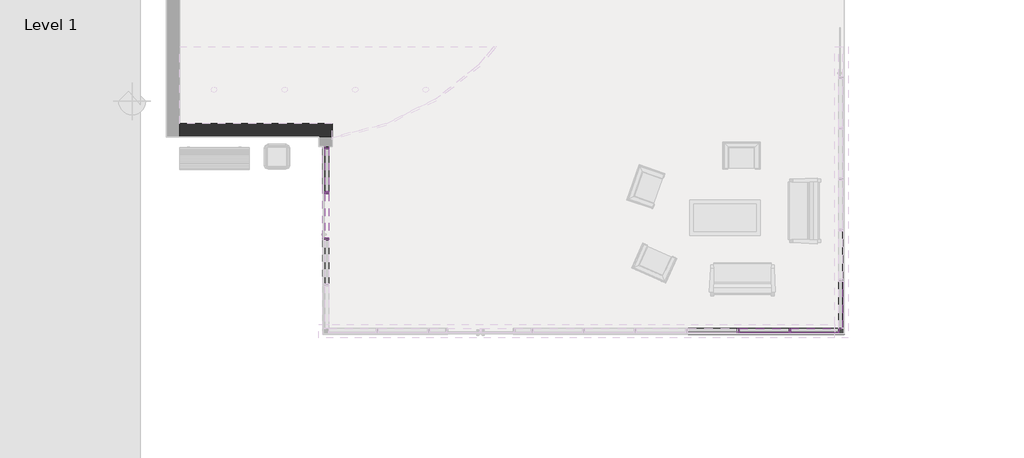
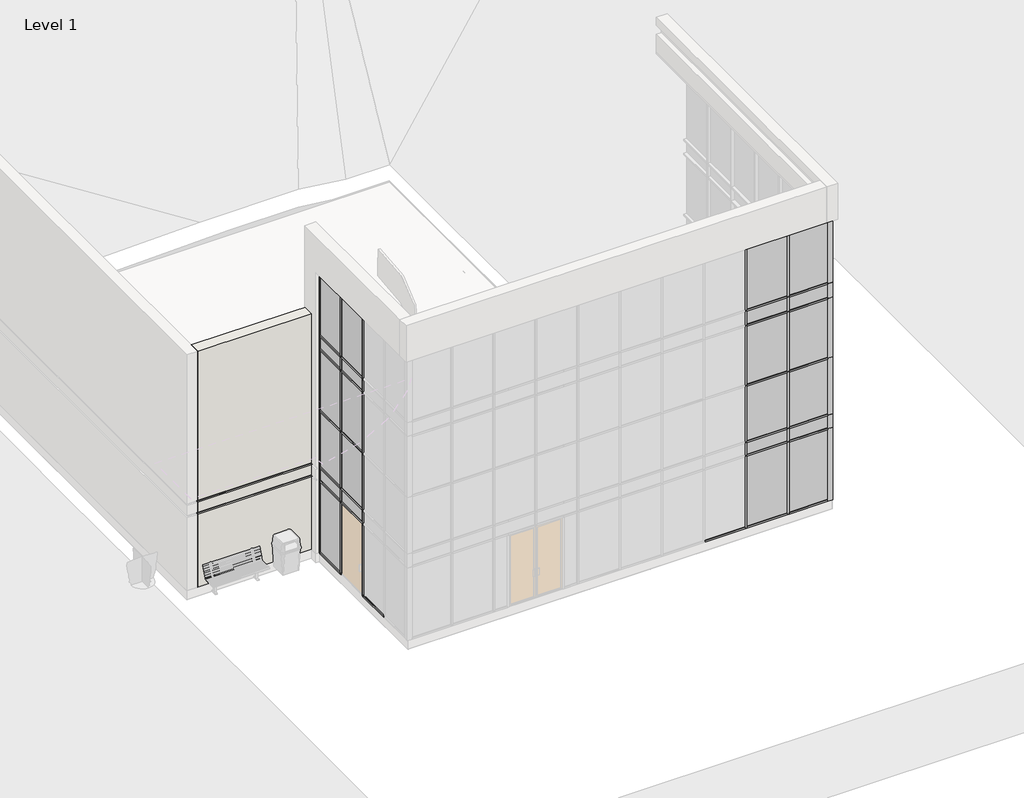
# One storey, part 3 of 6: 67 members, 30 plates, 1 wall.
"""IFC4 building model written with IfcOpenShell, lengths in millimetres."""

from ifc_helpers import new_model, si_unit, origin, place, context, project, spatial, faceted_brep, transform, mapped, element, save
from components import quad_corner_mullion_quad_mullion_1_fda5a4be, quad_corner_mullion_quad_mullion_1_bcb46a8a, quad_corner_mullion_quad_mullion_1_d3d17435, quad_corner_mullion_quad_mullion_1_17698892, quad_corner_mullion_quad_mullion_1_257211b5, quad_corner_mullion_quad_mullion_1_d4d7d3a7, rectangular_mullion_50_x_150mm_ae6afb2b, rectangular_mullion_50_x_150mm_9277cc62, rectangular_mullion_50_x_150mm_116e1582, rectangular_mullion_50_x_150mm_4a8db126, rectangular_mullion_50_x_150mm_f0eb3f16, rectangular_mullion_50_x_150mm_ef179906, rectangular_mullion_50_x_150mm_169d2d5c, rectangular_mullion_50_x_150mm_a98d9a75, rectangular_mullion_50_x_150mm_e5e1dcca, rectangular_mullion_50_x_150mm_47c0eb49, rectangular_mullion_50_x_150mm_2677f012, rectangular_mullion_50_x_150mm_686aa266, rectangular_mullion_50_x_150mm_55a91b40, rectangular_mullion_50_x_150mm_fd087c06, rectangular_mullion_50_x_150mm_e243c0e9, rectangular_mullion_50_x_150mm_1c0c8fcc, rectangular_mullion_50_x_150mm_eadac301, rectangular_mullion_50_x_150mm_5d9cdbe7, rectangular_mullion_50_x_150mm_d8a6659f, rectangular_mullion_50_x_150mm_c664ab49, rectangular_mullion_50_x_150mm_22f77a7a, system_panel_glazed_b7e011ba, system_panel_glazed_fa8e781c, system_panel_glazed_2755e160, system_panel_glazed_915f67fa, system_panel_glazed_d3095f7c, system_panel_glazed_40405178, system_panel_glazed_9a941065, system_panel_glazed_8cd55946, system_panel_glazed_23c7b05c, system_panel_glazed_1235180c, system_panel_glazed_c9174913, system_panel_glazed_3aaf1b15, system_panel_glazed_c71bf8b9, system_panel_glazed_c9745aa0, system_panel_glazed_3c257985, system_panel_glazed_e39aac95, system_panel_glazed_619aa5c3, system_panel_glazed_1cc95e9d, system_panel_glazed_5f4b9808, system_panel_glazed_b287760b, system_panel_glazed_29643dd6, system_panel_glazed_af9e971b, system_panel_glazed_48c6fd0a, system_panel_glazed_b8e40a07, system_panel_glazed_b5705625, system_panel_glazed_676078d9, system_panel_glazed_869bd01b

model = new_model("IFC4")

# Units and contexts
model_context = context("Model", 3, world=origin())
ifc_project = project(units=[si_unit("LENGTHUNIT", "METRE", prefix="MILLI")], contexts=[model_context])

# Site, building, storey
site = spatial("IfcSite", under=ifc_project)
building = spatial("IfcBuilding", under=site)
storey = spatial("IfcBuildingStorey", under=building, Name="Level 1", Elevation=45720.0)

# Members
placement = place(None, origin())
quad_corner_mullion_quad_mullion_1_shape = quad_corner_mullion_quad_mullion_1_fda5a4be(model_context)
element("IfcMember", 1, ObjectType="Quad Corner Mullion : Quad Mullion 1", at=placement, inside=storey, context=model_context, shape_type="MappedRepresentation", body=[
    mapped(quad_corner_mullion_quad_mullion_1_shape, transform((3237.9561928, -8109.3373862, 55168.8), x_axis=(1.0, 0.0, 0.0), y_axis=(0.0, 1.0, 0.0), z_axis=(0.0, 0.0, 1.0))),
])
quad_corner_mullion_quad_mullion_1_2_shape = quad_corner_mullion_quad_mullion_1_bcb46a8a(model_context)
element("IfcMember", 2, ObjectType="Quad Corner Mullion : Quad Mullion 1", at=placement, inside=storey, context=model_context, shape_type="MappedRepresentation", body=[
    mapped(quad_corner_mullion_quad_mullion_1_2_shape, transform((3237.9561928, -8109.3373862, 48158.4), x_axis=(1.0, 0.0, 0.0), y_axis=(0.0, 1.0, 0.0), z_axis=(0.0, 0.0, 1.0))),
])
quad_corner_mullion_quad_mullion_1_3_shape = quad_corner_mullion_quad_mullion_1_d3d17435(model_context)
element("IfcMember", 3, ObjectType="Quad Corner Mullion : Quad Mullion 1", at=placement, inside=storey, context=model_context, shape_type="MappedRepresentation", body=[
    mapped(quad_corner_mullion_quad_mullion_1_3_shape, transform((3237.9561928, -8109.3373862, 48615.6), x_axis=(1.0, 0.0, 0.0), y_axis=(0.0, 1.0, 0.0), z_axis=(0.0, 0.0, 1.0))),
])
quad_corner_mullion_quad_mullion_1_4_shape = quad_corner_mullion_quad_mullion_1_17698892(model_context)
element("IfcMember", 4, ObjectType="Quad Corner Mullion : Quad Mullion 1", at=placement, inside=storey, context=model_context, shape_type="MappedRepresentation", body=[
    mapped(quad_corner_mullion_quad_mullion_1_4_shape, transform((3237.9561928, -8109.3373862, 50520.0), x_axis=(1.0, 0.0, 0.0), y_axis=(0.0, 1.0, 0.0), z_axis=(0.0, 0.0, 1.0))),
])
quad_corner_mullion_quad_mullion_1_5_shape = quad_corner_mullion_quad_mullion_1_257211b5(model_context)
element("IfcMember", 5, ObjectType="Quad Corner Mullion : Quad Mullion 1", at=placement, inside=storey, context=model_context, shape_type="MappedRepresentation", body=[
    mapped(quad_corner_mullion_quad_mullion_1_5_shape, transform((3237.9561928, -8109.3373862, 53035.2), x_axis=(1.0, 0.0, 0.0), y_axis=(0.0, 1.0, 0.0), z_axis=(0.0, 0.0, 1.0))),
])
quad_corner_mullion_quad_mullion_1_6_shape = quad_corner_mullion_quad_mullion_1_d4d7d3a7(model_context)
element("IfcMember", 6, ObjectType="Quad Corner Mullion : Quad Mullion 1", at=placement, inside=storey, context=model_context, shape_type="MappedRepresentation", body=[
    mapped(quad_corner_mullion_quad_mullion_1_6_shape, transform((3237.9561928, -8109.3373862, 52535.2), x_axis=(1.0, 0.0, 0.0), y_axis=(0.0, 1.0, 0.0), z_axis=(0.0, 0.0, 1.0))),
])
rectangular_mullion_50_x_150mm_shape = rectangular_mullion_50_x_150mm_ae6afb2b(model_context)
element("IfcMember", 7, ObjectType="Rectangular Mullion : 50 x 150mm", at=placement, inside=storey, context=model_context, shape_type="MappedRepresentation", body=[
    mapped(rectangular_mullion_50_x_150mm_shape, transform((-10125.6188072, -4493.4123862, 55168.8), x_axis=(0.0, 0.0, 1.0), y_axis=(-1.0, 0.0, 0.0), z_axis=(0.0, -1.0, 0.0))),
])
rectangular_mullion_50_x_150mm_2_shape = rectangular_mullion_50_x_150mm_9277cc62(model_context)
element("IfcMember", 8, ObjectType="Rectangular Mullion : 50 x 150mm", at=placement, inside=storey, context=model_context, shape_type="MappedRepresentation", body=[
    mapped(rectangular_mullion_50_x_150mm_2_shape, transform((-10125.6188072, -5690.3873862, 55168.8), x_axis=(0.0, 0.0, 1.0), y_axis=(-1.0, 0.0, 0.0), z_axis=(0.0, -1.0, 0.0))),
])
element("IfcMember", 9, ObjectType="Rectangular Mullion : 50 x 150mm", at=placement, inside=storey, context=model_context, shape_type="MappedRepresentation", body=[
    mapped(rectangular_mullion_50_x_150mm_shape, transform((-10125.6188072, -3371.4373862, 45720.0), x_axis=(0.0, 0.0, -1.0), y_axis=(-1.0, 0.0, 0.0), z_axis=(0.0, 1.0, 0.0))),
])
element("IfcMember", 10, ObjectType="Rectangular Mullion : 50 x 150mm", at=placement, inside=storey, context=model_context, shape_type="MappedRepresentation", body=[
    mapped(rectangular_mullion_50_x_150mm_2_shape, transform((-10125.6188072, -5740.3873862, 45720.0), x_axis=(0.0, 0.0, -1.0), y_axis=(-1.0, 0.0, 0.0), z_axis=(0.0, 1.0, 0.0))),
])
rectangular_mullion_50_x_150mm_3_shape = rectangular_mullion_50_x_150mm_116e1582(model_context)
element("IfcMember", 11, ObjectType="Rectangular Mullion : 50 x 150mm", at=placement, inside=storey, context=model_context, shape_type="MappedRepresentation", body=[
    mapped(rectangular_mullion_50_x_150mm_3_shape, transform((-10125.6188072, -3321.4373862, 55168.8), x_axis=(0.0, 1.0, 0.0), y_axis=(-1.0, 0.0, 0.0), z_axis=(0.0, 0.0, 1.0))),
])
rectangular_mullion_50_x_150mm_4_shape = rectangular_mullion_50_x_150mm_4a8db126(model_context)
element("IfcMember", 12, ObjectType="Rectangular Mullion : 50 x 150mm", at=placement, inside=storey, context=model_context, shape_type="MappedRepresentation", body=[
    mapped(rectangular_mullion_50_x_150mm_4_shape, transform((-10125.6188072, -3321.4373862, 48158.4), x_axis=(0.0, 1.0, 0.0), y_axis=(-1.0, 0.0, 0.0), z_axis=(0.0, 0.0, 1.0))),
])
rectangular_mullion_50_x_150mm_5_shape = rectangular_mullion_50_x_150mm_f0eb3f16(model_context)
element("IfcMember", 13, ObjectType="Rectangular Mullion : 50 x 150mm", at=placement, inside=storey, context=model_context, shape_type="MappedRepresentation", body=[
    mapped(rectangular_mullion_50_x_150mm_5_shape, transform((-10125.6188072, -3321.4373862, 50520.0), x_axis=(0.0, 1.0, 0.0), y_axis=(-1.0, 0.0, 0.0), z_axis=(0.0, 0.0, 1.0))),
])
rectangular_mullion_50_x_150mm_6_shape = rectangular_mullion_50_x_150mm_ef179906(model_context)
element("IfcMember", 14, ObjectType="Rectangular Mullion : 50 x 150mm", at=placement, inside=storey, context=model_context, shape_type="MappedRepresentation", body=[
    mapped(rectangular_mullion_50_x_150mm_6_shape, transform((-10125.6188072, -4493.4123862, 48158.4), x_axis=(0.0, 0.0, 1.0), y_axis=(-1.0, 0.0, 0.0), z_axis=(0.0, -1.0, 0.0))),
])
element("IfcMember", 15, ObjectType="Rectangular Mullion : 50 x 150mm", at=placement, inside=storey, context=model_context, shape_type="MappedRepresentation", body=[
    mapped(rectangular_mullion_50_x_150mm_6_shape, transform((-10125.6188072, -4493.4123862, 50520.0), x_axis=(0.0, 0.0, 1.0), y_axis=(-1.0, 0.0, 0.0), z_axis=(0.0, -1.0, 0.0))),
])
element("IfcMember", 16, ObjectType="Rectangular Mullion : 50 x 150mm", at=placement, inside=storey, context=model_context, shape_type="MappedRepresentation", body=[
    mapped(rectangular_mullion_50_x_150mm_6_shape, transform((-10125.6188072, -4493.4123862, 53035.2), x_axis=(0.0, 0.0, 1.0), y_axis=(-1.0, 0.0, 0.0), z_axis=(0.0, -1.0, 0.0))),
])
element("IfcMember", 17, ObjectType="Rectangular Mullion : 50 x 150mm", at=placement, inside=storey, context=model_context, shape_type="MappedRepresentation", body=[
    mapped(rectangular_mullion_50_x_150mm_6_shape, transform((-10125.6188072, -4493.4123862, 48615.6), x_axis=(0.0, 0.0, 1.0), y_axis=(-1.0, 0.0, 0.0), z_axis=(0.0, -1.0, 0.0))),
])
element("IfcMember", 18, ObjectType="Rectangular Mullion : 50 x 150mm", at=placement, inside=storey, context=model_context, shape_type="MappedRepresentation", body=[
    mapped(rectangular_mullion_50_x_150mm_6_shape, transform((-10125.6188072, -4493.4123862, 52578.0), x_axis=(0.0, 0.0, 1.0), y_axis=(-1.0, 0.0, 0.0), z_axis=(0.0, -1.0, 0.0))),
])
rectangular_mullion_50_x_150mm_7_shape = rectangular_mullion_50_x_150mm_169d2d5c(model_context)
element("IfcMember", 19, ObjectType="Rectangular Mullion : 50 x 150mm", at=placement, inside=storey, context=model_context, shape_type="MappedRepresentation", body=[
    mapped(rectangular_mullion_50_x_150mm_7_shape, transform((-10125.6188072, -5690.3873862, 48158.4), x_axis=(0.0, 0.0, 1.0), y_axis=(-1.0, 0.0, 0.0), z_axis=(0.0, -1.0, 0.0))),
])
element("IfcMember", 20, ObjectType="Rectangular Mullion : 50 x 150mm", at=placement, inside=storey, context=model_context, shape_type="MappedRepresentation", body=[
    mapped(rectangular_mullion_50_x_150mm_7_shape, transform((-10125.6188072, -5690.3873862, 50520.0), x_axis=(0.0, 0.0, 1.0), y_axis=(-1.0, 0.0, 0.0), z_axis=(0.0, -1.0, 0.0))),
])
element("IfcMember", 21, ObjectType="Rectangular Mullion : 50 x 150mm", at=placement, inside=storey, context=model_context, shape_type="MappedRepresentation", body=[
    mapped(rectangular_mullion_50_x_150mm_7_shape, transform((-10125.6188072, -5690.3873862, 53035.2), x_axis=(0.0, 0.0, 1.0), y_axis=(-1.0, 0.0, 0.0), z_axis=(0.0, -1.0, 0.0))),
])
element("IfcMember", 22, ObjectType="Rectangular Mullion : 50 x 150mm", at=placement, inside=storey, context=model_context, shape_type="MappedRepresentation", body=[
    mapped(rectangular_mullion_50_x_150mm_7_shape, transform((-10125.6188072, -5690.3873862, 48615.6), x_axis=(0.0, 0.0, 1.0), y_axis=(-1.0, 0.0, 0.0), z_axis=(0.0, -1.0, 0.0))),
])
element("IfcMember", 23, ObjectType="Rectangular Mullion : 50 x 150mm", at=placement, inside=storey, context=model_context, shape_type="MappedRepresentation", body=[
    mapped(rectangular_mullion_50_x_150mm_7_shape, transform((-10125.6188072, -5690.3873862, 52578.0), x_axis=(0.0, 0.0, 1.0), y_axis=(-1.0, 0.0, 0.0), z_axis=(0.0, -1.0, 0.0))),
])
rectangular_mullion_50_x_150mm_8_shape = rectangular_mullion_50_x_150mm_a98d9a75(model_context)
element("IfcMember", 24, ObjectType="Rectangular Mullion : 50 x 150mm", at=placement, inside=storey, context=model_context, shape_type="MappedRepresentation", body=[
    mapped(rectangular_mullion_50_x_150mm_8_shape, transform((-10125.6188072, -4518.4123862, 45720.0), x_axis=(0.0, -1.0, 0.0), y_axis=(-1.0, 0.0, 0.0), z_axis=(0.0, 0.0, -1.0))),
])
element("IfcMember", 25, ObjectType="Rectangular Mullion : 50 x 150mm", at=placement, inside=storey, context=model_context, shape_type="MappedRepresentation", body=[
    mapped(rectangular_mullion_50_x_150mm_8_shape, transform((-10125.6188072, -5715.3873862, 45720.0), x_axis=(0.0, -1.0, 0.0), y_axis=(-1.0, 0.0, 0.0), z_axis=(0.0, 0.0, -1.0))),
])
rectangular_mullion_50_x_150mm_9_shape = rectangular_mullion_50_x_150mm_e5e1dcca(model_context)
element("IfcMember", 26, ObjectType="Rectangular Mullion : 50 x 150mm", at=placement, inside=storey, context=model_context, shape_type="MappedRepresentation", body=[
    mapped(rectangular_mullion_50_x_150mm_9_shape, transform((-10125.6188072, -4518.4123862, 48158.4), x_axis=(0.0, -1.0, 0.0), y_axis=(-1.0, 0.0, 0.0), z_axis=(0.0, 0.0, -1.0))),
])
element("IfcMember", 27, ObjectType="Rectangular Mullion : 50 x 150mm", at=placement, inside=storey, context=model_context, shape_type="MappedRepresentation", body=[
    mapped(rectangular_mullion_50_x_150mm_9_shape, transform((-10125.6188072, -5715.3873862, 48158.4), x_axis=(0.0, -1.0, 0.0), y_axis=(-1.0, 0.0, 0.0), z_axis=(0.0, 0.0, -1.0))),
])
element("IfcMember", 28, ObjectType="Rectangular Mullion : 50 x 150mm", at=placement, inside=storey, context=model_context, shape_type="MappedRepresentation", body=[
    mapped(rectangular_mullion_50_x_150mm_9_shape, transform((-10125.6188072, -4518.4123862, 52578.0), x_axis=(0.0, -1.0, 0.0), y_axis=(-1.0, 0.0, 0.0), z_axis=(0.0, 0.0, -1.0))),
])
element("IfcMember", 29, ObjectType="Rectangular Mullion : 50 x 150mm", at=placement, inside=storey, context=model_context, shape_type="MappedRepresentation", body=[
    mapped(rectangular_mullion_50_x_150mm_9_shape, transform((-10125.6188072, -5715.3873862, 52578.0), x_axis=(0.0, -1.0, 0.0), y_axis=(-1.0, 0.0, 0.0), z_axis=(0.0, 0.0, -1.0))),
])
rectangular_mullion_50_x_150mm_10_shape = rectangular_mullion_50_x_150mm_47c0eb49(model_context)
element("IfcMember", 30, ObjectType="Rectangular Mullion : 50 x 150mm", at=placement, inside=storey, context=model_context, shape_type="MappedRepresentation", body=[
    mapped(rectangular_mullion_50_x_150mm_10_shape, transform((-10125.6188072, -4518.4123862, 50520.0), x_axis=(0.0, -1.0, 0.0), y_axis=(-1.0, 0.0, 0.0), z_axis=(0.0, 0.0, -1.0))),
])
element("IfcMember", 31, ObjectType="Rectangular Mullion : 50 x 150mm", at=placement, inside=storey, context=model_context, shape_type="MappedRepresentation", body=[
    mapped(rectangular_mullion_50_x_150mm_10_shape, transform((-10125.6188072, -5715.3873862, 50520.0), x_axis=(0.0, -1.0, 0.0), y_axis=(-1.0, 0.0, 0.0), z_axis=(0.0, 0.0, -1.0))),
])
rectangular_mullion_50_x_150mm_11_shape = rectangular_mullion_50_x_150mm_2677f012(model_context)
element("IfcMember", 32, ObjectType="Rectangular Mullion : 50 x 150mm", at=placement, inside=storey, context=model_context, shape_type="MappedRepresentation", body=[
    mapped(rectangular_mullion_50_x_150mm_11_shape, transform((-10125.6188072, -4518.4123862, 53035.2), x_axis=(0.0, -1.0, 0.0), y_axis=(-1.0, 0.0, 0.0), z_axis=(0.0, 0.0, -1.0))),
])
element("IfcMember", 33, ObjectType="Rectangular Mullion : 50 x 150mm", at=placement, inside=storey, context=model_context, shape_type="MappedRepresentation", body=[
    mapped(rectangular_mullion_50_x_150mm_11_shape, transform((-10125.6188072, -5715.3873862, 53035.2), x_axis=(0.0, -1.0, 0.0), y_axis=(-1.0, 0.0, 0.0), z_axis=(0.0, 0.0, -1.0))),
])
rectangular_mullion_50_x_150mm_12_shape = rectangular_mullion_50_x_150mm_686aa266(model_context)
element("IfcMember", 34, ObjectType="Rectangular Mullion : 50 x 150mm", at=placement, inside=storey, context=model_context, shape_type="MappedRepresentation", body=[
    mapped(rectangular_mullion_50_x_150mm_12_shape, transform((-10125.6188072, -3321.4373862, 53035.2), x_axis=(0.0, 1.0, 0.0), y_axis=(-1.0, 0.0, 0.0), z_axis=(0.0, 0.0, 1.0))),
])
element("IfcMember", 35, ObjectType="Rectangular Mullion : 50 x 150mm", at=placement, inside=storey, context=model_context, shape_type="MappedRepresentation", body=[
    mapped(rectangular_mullion_50_x_150mm_12_shape, transform((-10125.6188072, -3321.4373862, 48615.6), x_axis=(0.0, 1.0, 0.0), y_axis=(-1.0, 0.0, 0.0), z_axis=(0.0, 0.0, 1.0))),
])
rectangular_mullion_50_x_150mm_13_shape = rectangular_mullion_50_x_150mm_55a91b40(model_context)
element("IfcMember", 36, ObjectType="Rectangular Mullion : 50 x 150mm", at=placement, inside=storey, context=model_context, shape_type="MappedRepresentation", body=[
    mapped(rectangular_mullion_50_x_150mm_13_shape, transform((-10125.6188072, -4518.4123862, 48615.6), x_axis=(0.0, -1.0, 0.0), y_axis=(-1.0, 0.0, 0.0), z_axis=(0.0, 0.0, -1.0))),
])
element("IfcMember", 37, ObjectType="Rectangular Mullion : 50 x 150mm", at=placement, inside=storey, context=model_context, shape_type="MappedRepresentation", body=[
    mapped(rectangular_mullion_50_x_150mm_13_shape, transform((-10125.6188072, -5715.3873862, 48615.6), x_axis=(0.0, -1.0, 0.0), y_axis=(-1.0, 0.0, 0.0), z_axis=(0.0, 0.0, -1.0))),
])
rectangular_mullion_50_x_150mm_14_shape = rectangular_mullion_50_x_150mm_fd087c06(model_context)
element("IfcMember", 38, ObjectType="Rectangular Mullion : 50 x 150mm", at=placement, inside=storey, context=model_context, shape_type="MappedRepresentation", body=[
    mapped(rectangular_mullion_50_x_150mm_14_shape, transform((-10125.6188072, -3321.4373862, 52578.0), x_axis=(0.0, 1.0, 0.0), y_axis=(-1.0, 0.0, 0.0), z_axis=(0.0, 0.0, 1.0))),
])
rectangular_mullion_50_x_150mm_15_shape = rectangular_mullion_50_x_150mm_e243c0e9(model_context)
element("IfcMember", 39, ObjectType="Rectangular Mullion : 50 x 150mm", at=placement, inside=storey, context=model_context, shape_type="MappedRepresentation", body=[
    mapped(rectangular_mullion_50_x_150mm_15_shape, transform((3237.9561928, -6818.7818307, 55168.8), x_axis=(0.0, 0.0, 1.0), y_axis=(1.0, 0.0, 0.0), z_axis=(0.0, 1.0, 0.0))),
])
element("IfcMember", 40, ObjectType="Rectangular Mullion : 50 x 150mm", at=placement, inside=storey, context=model_context, shape_type="MappedRepresentation", body=[
    mapped(rectangular_mullion_50_x_150mm_15_shape, transform((3237.9561928, -8034.3373862, 45720.0), x_axis=(0.0, 0.0, -1.0), y_axis=(1.0, 0.0, 0.0), z_axis=(0.0, -1.0, 0.0))),
])
element("IfcMember", 41, ObjectType="Rectangular Mullion : 50 x 150mm", at=placement, inside=storey, context=model_context, shape_type="MappedRepresentation", body=[
    mapped(rectangular_mullion_50_x_150mm_9_shape, transform((565.2411928, -8109.3373862, 48158.4), x_axis=(-1.0, 0.0, 0.0), y_axis=(0.0, 1.0, 0.0), z_axis=(0.0, 0.0, -1.0))),
])
element("IfcMember", 42, ObjectType="Rectangular Mullion : 50 x 150mm", at=placement, inside=storey, context=model_context, shape_type="MappedRepresentation", body=[
    mapped(rectangular_mullion_50_x_150mm_9_shape, transform((1901.5986928, -8109.3373862, 48158.4), x_axis=(-1.0, 0.0, 0.0), y_axis=(0.0, 1.0, 0.0), z_axis=(0.0, 0.0, -1.0))),
])
element("IfcMember", 43, ObjectType="Rectangular Mullion : 50 x 150mm", at=placement, inside=storey, context=model_context, shape_type="MappedRepresentation", body=[
    mapped(rectangular_mullion_50_x_150mm_13_shape, transform((565.2411928, -8109.3373862, 48615.6), x_axis=(-1.0, 0.0, 0.0), y_axis=(0.0, 1.0, 0.0), z_axis=(0.0, 0.0, -1.0))),
])
element("IfcMember", 44, ObjectType="Rectangular Mullion : 50 x 150mm", at=placement, inside=storey, context=model_context, shape_type="MappedRepresentation", body=[
    mapped(rectangular_mullion_50_x_150mm_13_shape, transform((1901.5986928, -8109.3373862, 48615.6), x_axis=(-1.0, 0.0, 0.0), y_axis=(0.0, 1.0, 0.0), z_axis=(0.0, 0.0, -1.0))),
])
element("IfcMember", 45, ObjectType="Rectangular Mullion : 50 x 150mm", at=placement, inside=storey, context=model_context, shape_type="MappedRepresentation", body=[
    mapped(rectangular_mullion_50_x_150mm_11_shape, transform((1901.5986928, -8109.3373862, 53035.2), x_axis=(-1.0, 0.0, 0.0), y_axis=(0.0, 1.0, 0.0), z_axis=(0.0, 0.0, -1.0))),
])
element("IfcMember", 46, ObjectType="Rectangular Mullion : 50 x 150mm", at=placement, inside=storey, context=model_context, shape_type="MappedRepresentation", body=[
    mapped(rectangular_mullion_50_x_150mm_11_shape, transform((565.2411928, -8109.3373862, 53035.2), x_axis=(-1.0, 0.0, 0.0), y_axis=(0.0, 1.0, 0.0), z_axis=(0.0, 0.0, -1.0))),
])
element("IfcMember", 47, ObjectType="Rectangular Mullion : 50 x 150mm", at=placement, inside=storey, context=model_context, shape_type="MappedRepresentation", body=[
    mapped(rectangular_mullion_50_x_150mm_8_shape, transform((1901.5986928, -8109.3373862, 45720.0), x_axis=(-1.0, 0.0, 0.0), y_axis=(0.0, 1.0, 0.0), z_axis=(0.0, 0.0, -1.0))),
])
element("IfcMember", 48, ObjectType="Rectangular Mullion : 50 x 150mm", at=placement, inside=storey, context=model_context, shape_type="MappedRepresentation", body=[
    mapped(rectangular_mullion_50_x_150mm_8_shape, transform((565.2411928, -8109.3373862, 45720.0), x_axis=(-1.0, 0.0, 0.0), y_axis=(0.0, 1.0, 0.0), z_axis=(0.0, 0.0, -1.0))),
])
rectangular_mullion_50_x_150mm_16_shape = rectangular_mullion_50_x_150mm_1c0c8fcc(model_context)
element("IfcMember", 49, ObjectType="Rectangular Mullion : 50 x 150mm", at=placement, inside=storey, context=model_context, shape_type="MappedRepresentation", body=[
    mapped(rectangular_mullion_50_x_150mm_16_shape, transform((590.2411928, -8109.3373862, 48615.6), x_axis=(0.0, 0.0, 1.0), y_axis=(0.0, 1.0, 0.0), z_axis=(-1.0, 0.0, 0.0))),
])
element("IfcMember", 50, ObjectType="Rectangular Mullion : 50 x 150mm", at=placement, inside=storey, context=model_context, shape_type="MappedRepresentation", body=[
    mapped(rectangular_mullion_50_x_150mm_16_shape, transform((590.2411928, -8109.3373862, 48158.4), x_axis=(0.0, 0.0, 1.0), y_axis=(0.0, 1.0, 0.0), z_axis=(-1.0, 0.0, 0.0))),
])
element("IfcMember", 51, ObjectType="Rectangular Mullion : 50 x 150mm", at=placement, inside=storey, context=model_context, shape_type="MappedRepresentation", body=[
    mapped(rectangular_mullion_50_x_150mm_16_shape, transform((590.2411928, -8109.3373862, 53035.2), x_axis=(0.0, 0.0, 1.0), y_axis=(0.0, 1.0, 0.0), z_axis=(-1.0, 0.0, 0.0))),
])
element("IfcMember", 52, ObjectType="Rectangular Mullion : 50 x 150mm", at=placement, inside=storey, context=model_context, shape_type="MappedRepresentation", body=[
    mapped(rectangular_mullion_50_x_150mm_16_shape, transform((590.2411928, -8109.3373862, 50520.0), x_axis=(0.0, 0.0, 1.0), y_axis=(0.0, 1.0, 0.0), z_axis=(-1.0, 0.0, 0.0))),
])
element("IfcMember", 53, ObjectType="Rectangular Mullion : 50 x 150mm", at=placement, inside=storey, context=model_context, shape_type="MappedRepresentation", body=[
    mapped(rectangular_mullion_50_x_150mm_16_shape, transform((590.2411928, -8109.3373862, 52535.2), x_axis=(0.0, 0.0, 1.0), y_axis=(0.0, 1.0, 0.0), z_axis=(-1.0, 0.0, 0.0))),
])
rectangular_mullion_50_x_150mm_17_shape = rectangular_mullion_50_x_150mm_eadac301(model_context)
element("IfcMember", 54, ObjectType="Rectangular Mullion : 50 x 150mm", at=placement, inside=storey, context=model_context, shape_type="MappedRepresentation", body=[
    mapped(rectangular_mullion_50_x_150mm_17_shape, transform((1926.5986928, -8109.3373862, 50520.0), x_axis=(0.0, 0.0, 1.0), y_axis=(0.0, 1.0, 0.0), z_axis=(-1.0, 0.0, 0.0))),
])
element("IfcMember", 55, ObjectType="Rectangular Mullion : 50 x 150mm", at=placement, inside=storey, context=model_context, shape_type="MappedRepresentation", body=[
    mapped(rectangular_mullion_50_x_150mm_17_shape, transform((1926.5986928, -8109.3373862, 48615.6), x_axis=(0.0, 0.0, 1.0), y_axis=(0.0, 1.0, 0.0), z_axis=(-1.0, 0.0, 0.0))),
])
element("IfcMember", 56, ObjectType="Rectangular Mullion : 50 x 150mm", at=placement, inside=storey, context=model_context, shape_type="MappedRepresentation", body=[
    mapped(rectangular_mullion_50_x_150mm_17_shape, transform((1926.5986928, -8109.3373862, 48158.4), x_axis=(0.0, 0.0, 1.0), y_axis=(0.0, 1.0, 0.0), z_axis=(-1.0, 0.0, 0.0))),
])
element("IfcMember", 57, ObjectType="Rectangular Mullion : 50 x 150mm", at=placement, inside=storey, context=model_context, shape_type="MappedRepresentation", body=[
    mapped(rectangular_mullion_50_x_150mm_17_shape, transform((1926.5986928, -8109.3373862, 53035.2), x_axis=(0.0, 0.0, 1.0), y_axis=(0.0, 1.0, 0.0), z_axis=(-1.0, 0.0, 0.0))),
])
element("IfcMember", 58, ObjectType="Rectangular Mullion : 50 x 150mm", at=placement, inside=storey, context=model_context, shape_type="MappedRepresentation", body=[
    mapped(rectangular_mullion_50_x_150mm_17_shape, transform((1926.5986928, -8109.3373862, 52535.2), x_axis=(0.0, 0.0, 1.0), y_axis=(0.0, 1.0, 0.0), z_axis=(-1.0, 0.0, 0.0))),
])
rectangular_mullion_50_x_150mm_18_shape = rectangular_mullion_50_x_150mm_5d9cdbe7(model_context)
element("IfcMember", 59, ObjectType="Rectangular Mullion : 50 x 150mm", at=placement, inside=storey, context=model_context, shape_type="MappedRepresentation", body=[
    mapped(rectangular_mullion_50_x_150mm_18_shape, transform((1876.5986928, -8109.3373862, 45720.0), x_axis=(0.0, 0.0, -1.0), y_axis=(0.0, 1.0, 0.0), z_axis=(1.0, 0.0, 0.0))),
])
element("IfcMember", 60, ObjectType="Rectangular Mullion : 50 x 150mm", at=placement, inside=storey, context=model_context, shape_type="MappedRepresentation", body=[
    mapped(rectangular_mullion_50_x_150mm_18_shape, transform((540.2411928, -8109.3373862, 45720.0), x_axis=(0.0, 0.0, -1.0), y_axis=(0.0, 1.0, 0.0), z_axis=(1.0, 0.0, 0.0))),
])
element("IfcMember", 61, ObjectType="Rectangular Mullion : 50 x 150mm", at=placement, inside=storey, context=model_context, shape_type="MappedRepresentation", body=[
    mapped(rectangular_mullion_50_x_150mm_18_shape, transform((590.2411928, -8109.3373862, 55168.8), x_axis=(0.0, 0.0, 1.0), y_axis=(0.0, 1.0, 0.0), z_axis=(-1.0, 0.0, 0.0))),
])
rectangular_mullion_50_x_150mm_19_shape = rectangular_mullion_50_x_150mm_d8a6659f(model_context)
element("IfcMember", 62, ObjectType="Rectangular Mullion : 50 x 150mm", at=placement, inside=storey, context=model_context, shape_type="MappedRepresentation", body=[
    mapped(rectangular_mullion_50_x_150mm_19_shape, transform((1926.5986928, -8109.3373862, 55168.8), x_axis=(0.0, 0.0, 1.0), y_axis=(0.0, 1.0, 0.0), z_axis=(-1.0, 0.0, 0.0))),
])
element("IfcMember", 63, ObjectType="Rectangular Mullion : 50 x 150mm", at=placement, inside=storey, context=model_context, shape_type="MappedRepresentation", body=[
    mapped(rectangular_mullion_50_x_150mm_19_shape, transform((3162.9561928, -8109.3373862, 45720.0), x_axis=(0.0, 0.0, -1.0), y_axis=(0.0, 1.0, 0.0), z_axis=(1.0, 0.0, 0.0))),
])
rectangular_mullion_50_x_150mm_20_shape = rectangular_mullion_50_x_150mm_c664ab49(model_context)
element("IfcMember", 64, ObjectType="Rectangular Mullion : 50 x 150mm", at=placement, inside=storey, context=model_context, shape_type="MappedRepresentation", body=[
    mapped(rectangular_mullion_50_x_150mm_20_shape, transform((565.2411928, -8109.3373862, 50520.0), x_axis=(-1.0, 0.0, 0.0), y_axis=(0.0, 1.0, 0.0), z_axis=(0.0, 0.0, -1.0))),
])
element("IfcMember", 65, ObjectType="Rectangular Mullion : 50 x 150mm", at=placement, inside=storey, context=model_context, shape_type="MappedRepresentation", body=[
    mapped(rectangular_mullion_50_x_150mm_20_shape, transform((1901.5986928, -8109.3373862, 50520.0), x_axis=(-1.0, 0.0, 0.0), y_axis=(0.0, 1.0, 0.0), z_axis=(0.0, 0.0, -1.0))),
])
rectangular_mullion_50_x_150mm_21_shape = rectangular_mullion_50_x_150mm_22f77a7a(model_context)
element("IfcMember", 66, ObjectType="Rectangular Mullion : 50 x 150mm", at=placement, inside=storey, context=model_context, shape_type="MappedRepresentation", body=[
    mapped(rectangular_mullion_50_x_150mm_21_shape, transform((565.2411928, -8109.3373862, 52535.2), x_axis=(-1.0, 0.0, 0.0), y_axis=(0.0, 1.0, 0.0), z_axis=(0.0, 0.0, -1.0))),
])
element("IfcMember", 67, ObjectType="Rectangular Mullion : 50 x 150mm", at=placement, inside=storey, context=model_context, shape_type="MappedRepresentation", body=[
    mapped(rectangular_mullion_50_x_150mm_21_shape, transform((1901.5986928, -8109.3373862, 52535.2), x_axis=(-1.0, 0.0, 0.0), y_axis=(0.0, 1.0, 0.0), z_axis=(0.0, 0.0, -1.0))),
])

# Plates
system_panel_glazed_shape = system_panel_glazed_b7e011ba(model_context)
element("IfcPlate", 68, ObjectType="System Panel : Glazed", at=placement, inside=storey, context=model_context, shape_type="MappedRepresentation", body=[
    mapped(system_panel_glazed_shape, transform((-10125.6188072, -3932.4248862, 45770.0), x_axis=(0.0, -1.0, 0.0), y_axis=(1.0, 0.0, 0.0), z_axis=(0.0, 0.0, 1.0))),
])
system_panel_glazed_2_shape = system_panel_glazed_fa8e781c(model_context)
element("IfcPlate", 69, ObjectType="System Panel : Glazed", at=placement, inside=storey, context=model_context, shape_type="MappedRepresentation", body=[
    mapped(system_panel_glazed_2_shape, transform((-10125.6188072, -3932.4248862, 48183.4), x_axis=(0.0, -1.0, 0.0), y_axis=(1.0, 0.0, 0.0), z_axis=(0.0, 0.0, 1.0))),
])
element("IfcPlate", 70, ObjectType="System Panel : Glazed", at=placement, inside=storey, context=model_context, shape_type="MappedRepresentation", body=[
    mapped(system_panel_glazed_2_shape, transform((-10125.6188072, -3932.4248862, 52603.0), x_axis=(0.0, -1.0, 0.0), y_axis=(1.0, 0.0, 0.0), z_axis=(0.0, 0.0, 1.0))),
])
system_panel_glazed_3_shape = system_panel_glazed_2755e160(model_context)
element("IfcPlate", 71, ObjectType="System Panel : Glazed", at=placement, inside=storey, context=model_context, shape_type="MappedRepresentation", body=[
    mapped(system_panel_glazed_3_shape, transform((-10125.6188072, -5116.8998862, 48183.4), x_axis=(0.0, -1.0, 0.0), y_axis=(1.0, 0.0, 0.0), z_axis=(0.0, 0.0, 1.0))),
])
element("IfcPlate", 72, ObjectType="System Panel : Glazed", at=placement, inside=storey, context=model_context, shape_type="MappedRepresentation", body=[
    mapped(system_panel_glazed_3_shape, transform((-10125.6188072, -5116.8998862, 52603.0), x_axis=(0.0, -1.0, 0.0), y_axis=(1.0, 0.0, 0.0), z_axis=(0.0, 0.0, 1.0))),
])
system_panel_glazed_4_shape = system_panel_glazed_915f67fa(model_context)
element("IfcPlate", 73, ObjectType="System Panel : Glazed", at=placement, inside=storey, context=model_context, shape_type="MappedRepresentation", body=[
    mapped(system_panel_glazed_4_shape, transform((-10125.6188072, -3932.4248862, 50545.0), x_axis=(0.0, -1.0, 0.0), y_axis=(1.0, 0.0, 0.0), z_axis=(0.0, 0.0, 1.0))),
])
system_panel_glazed_5_shape = system_panel_glazed_d3095f7c(model_context)
element("IfcPlate", 74, ObjectType="System Panel : Glazed", at=placement, inside=storey, context=model_context, shape_type="MappedRepresentation", body=[
    mapped(system_panel_glazed_5_shape, transform((-10125.6188072, -5116.8998862, 50545.0), x_axis=(0.0, -1.0, 0.0), y_axis=(1.0, 0.0, 0.0), z_axis=(0.0, 0.0, 1.0))),
])
system_panel_glazed_6_shape = system_panel_glazed_40405178(model_context)
element("IfcPlate", 75, ObjectType="System Panel : Glazed", at=placement, inside=storey, context=model_context, shape_type="MappedRepresentation", body=[
    mapped(system_panel_glazed_6_shape, transform((-10125.6188072, -3932.4248862, 53060.2), x_axis=(0.0, -1.0, 0.0), y_axis=(1.0, 0.0, 0.0), z_axis=(0.0, 0.0, 1.0))),
])
system_panel_glazed_7_shape = system_panel_glazed_9a941065(model_context)
element("IfcPlate", 76, ObjectType="System Panel : Glazed", at=placement, inside=storey, context=model_context, shape_type="MappedRepresentation", body=[
    mapped(system_panel_glazed_7_shape, transform((-10125.6188072, -5116.8998862, 53060.2), x_axis=(0.0, -1.0, 0.0), y_axis=(1.0, 0.0, 0.0), z_axis=(0.0, 0.0, 1.0))),
])
system_panel_glazed_8_shape = system_panel_glazed_8cd55946(model_context)
element("IfcPlate", 77, ObjectType="System Panel : Glazed", at=placement, inside=storey, context=model_context, shape_type="MappedRepresentation", body=[
    mapped(system_panel_glazed_8_shape, transform((-10125.6188072, -3932.4248862, 48640.6), x_axis=(0.0, -1.0, 0.0), y_axis=(1.0, 0.0, 0.0), z_axis=(0.0, 0.0, 1.0))),
])
system_panel_glazed_9_shape = system_panel_glazed_23c7b05c(model_context)
element("IfcPlate", 78, ObjectType="System Panel : Glazed", at=placement, inside=storey, context=model_context, shape_type="MappedRepresentation", body=[
    mapped(system_panel_glazed_9_shape, transform((-10125.6188072, -5116.8998862, 48640.6), x_axis=(0.0, -1.0, 0.0), y_axis=(1.0, 0.0, 0.0), z_axis=(0.0, 0.0, 1.0))),
])
system_panel_glazed_10_shape = system_panel_glazed_1235180c(model_context)
element("IfcPlate", 79, ObjectType="System Panel : Glazed", at=placement, inside=storey, context=model_context, shape_type="MappedRepresentation", body=[
    mapped(system_panel_glazed_10_shape, transform((3237.9561928, -6136.0040529, 45770.0), x_axis=(0.0, 1.0, 0.0), y_axis=(-1.0, 0.0, 0.0), z_axis=(0.0, 0.0, 1.0))),
])
system_panel_glazed_11_shape = system_panel_glazed_c9174913(model_context)
element("IfcPlate", 80, ObjectType="System Panel : Glazed", at=placement, inside=storey, context=model_context, shape_type="MappedRepresentation", body=[
    mapped(system_panel_glazed_11_shape, transform((3237.9561928, -7426.5596084, 45770.0), x_axis=(0.0, 1.0, 0.0), y_axis=(-1.0, 0.0, 0.0), z_axis=(0.0, 0.0, 1.0))),
])
system_panel_glazed_12_shape = system_panel_glazed_3aaf1b15(model_context)
element("IfcPlate", 81, ObjectType="System Panel : Glazed", at=placement, inside=storey, context=model_context, shape_type="MappedRepresentation", body=[
    mapped(system_panel_glazed_12_shape, transform((3237.9561928, -7426.5596084, 48183.4), x_axis=(0.0, 1.0, 0.0), y_axis=(-1.0, 0.0, 0.0), z_axis=(0.0, 0.0, 1.0))),
])
element("IfcPlate", 82, ObjectType="System Panel : Glazed", at=placement, inside=storey, context=model_context, shape_type="MappedRepresentation", body=[
    mapped(system_panel_glazed_12_shape, transform((3237.9561928, -7426.5596084, 52603.0), x_axis=(0.0, 1.0, 0.0), y_axis=(-1.0, 0.0, 0.0), z_axis=(0.0, 0.0, 1.0))),
])
system_panel_glazed_13_shape = system_panel_glazed_c71bf8b9(model_context)
element("IfcPlate", 83, ObjectType="System Panel : Glazed", at=placement, inside=storey, context=model_context, shape_type="MappedRepresentation", body=[
    mapped(system_panel_glazed_13_shape, transform((3237.9561928, -7426.5596084, 50545.0), x_axis=(0.0, 1.0, 0.0), y_axis=(-1.0, 0.0, 0.0), z_axis=(0.0, 0.0, 1.0))),
])
system_panel_glazed_14_shape = system_panel_glazed_c9745aa0(model_context)
element("IfcPlate", 84, ObjectType="System Panel : Glazed", at=placement, inside=storey, context=model_context, shape_type="MappedRepresentation", body=[
    mapped(system_panel_glazed_14_shape, transform((3237.9561928, -7426.5596084, 53060.2), x_axis=(0.0, 1.0, 0.0), y_axis=(-1.0, 0.0, 0.0), z_axis=(0.0, 0.0, 1.0))),
])
system_panel_glazed_15_shape = system_panel_glazed_3c257985(model_context)
element("IfcPlate", 85, ObjectType="System Panel : Glazed", at=placement, inside=storey, context=model_context, shape_type="MappedRepresentation", body=[
    mapped(system_panel_glazed_15_shape, transform((3237.9561928, -7426.5596084, 48640.6), x_axis=(0.0, 1.0, 0.0), y_axis=(-1.0, 0.0, 0.0), z_axis=(0.0, 0.0, 1.0))),
])
system_panel_glazed_16_shape = system_panel_glazed_e39aac95(model_context)
element("IfcPlate", 86, ObjectType="System Panel : Glazed", at=placement, inside=storey, context=model_context, shape_type="MappedRepresentation", body=[
    mapped(system_panel_glazed_16_shape, transform((2544.7774428, -8109.3373862, 45770.0), x_axis=(-1.0, 0.0, 0.0), y_axis=(0.0, -1.0, 0.0), z_axis=(0.0, 0.0, 1.0))),
])
system_panel_glazed_17_shape = system_panel_glazed_619aa5c3(model_context)
element("IfcPlate", 87, ObjectType="System Panel : Glazed", at=placement, inside=storey, context=model_context, shape_type="MappedRepresentation", body=[
    mapped(system_panel_glazed_17_shape, transform((2544.7774428, -8109.3373862, 48183.4), x_axis=(-1.0, 0.0, 0.0), y_axis=(0.0, -1.0, 0.0), z_axis=(0.0, 0.0, 1.0))),
])
system_panel_glazed_18_shape = system_panel_glazed_1cc95e9d(model_context)
element("IfcPlate", 88, ObjectType="System Panel : Glazed", at=placement, inside=storey, context=model_context, shape_type="MappedRepresentation", body=[
    mapped(system_panel_glazed_18_shape, transform((2544.7774428, -8109.3373862, 48640.6), x_axis=(-1.0, 0.0, 0.0), y_axis=(0.0, -1.0, 0.0), z_axis=(0.0, 0.0, 1.0))),
])
system_panel_glazed_19_shape = system_panel_glazed_5f4b9808(model_context)
element("IfcPlate", 89, ObjectType="System Panel : Glazed", at=placement, inside=storey, context=model_context, shape_type="MappedRepresentation", body=[
    mapped(system_panel_glazed_19_shape, transform((2544.7774428, -8109.3373862, 53060.2), x_axis=(-1.0, 0.0, 0.0), y_axis=(0.0, -1.0, 0.0), z_axis=(0.0, 0.0, 1.0))),
])
system_panel_glazed_20_shape = system_panel_glazed_b287760b(model_context)
element("IfcPlate", 90, ObjectType="System Panel : Glazed", at=placement, inside=storey, context=model_context, shape_type="MappedRepresentation", body=[
    mapped(system_panel_glazed_20_shape, transform((1233.4199428, -8109.3373862, 45770.0), x_axis=(-1.0, 0.0, 0.0), y_axis=(0.0, -1.0, 0.0), z_axis=(0.0, 0.0, 1.0))),
])
system_panel_glazed_21_shape = system_panel_glazed_29643dd6(model_context)
element("IfcPlate", 91, ObjectType="System Panel : Glazed", at=placement, inside=storey, context=model_context, shape_type="MappedRepresentation", body=[
    mapped(system_panel_glazed_21_shape, transform((1233.4199428, -8109.3373862, 48183.4), x_axis=(-1.0, 0.0, 0.0), y_axis=(0.0, -1.0, 0.0), z_axis=(0.0, 0.0, 1.0))),
])
system_panel_glazed_22_shape = system_panel_glazed_af9e971b(model_context)
element("IfcPlate", 92, ObjectType="System Panel : Glazed", at=placement, inside=storey, context=model_context, shape_type="MappedRepresentation", body=[
    mapped(system_panel_glazed_22_shape, transform((1233.4199428, -8109.3373862, 48640.6), x_axis=(-1.0, 0.0, 0.0), y_axis=(0.0, -1.0, 0.0), z_axis=(0.0, 0.0, 1.0))),
])
system_panel_glazed_23_shape = system_panel_glazed_48c6fd0a(model_context)
element("IfcPlate", 93, ObjectType="System Panel : Glazed", at=placement, inside=storey, context=model_context, shape_type="MappedRepresentation", body=[
    mapped(system_panel_glazed_23_shape, transform((1233.4199428, -8109.3373862, 53060.2), x_axis=(-1.0, 0.0, 0.0), y_axis=(0.0, -1.0, 0.0), z_axis=(0.0, 0.0, 1.0))),
])
system_panel_glazed_24_shape = system_panel_glazed_b8e40a07(model_context)
element("IfcPlate", 94, ObjectType="System Panel : Glazed", at=placement, inside=storey, context=model_context, shape_type="MappedRepresentation", body=[
    mapped(system_panel_glazed_24_shape, transform((2544.7774428, -8109.3373862, 50545.0), x_axis=(-1.0, 0.0, 0.0), y_axis=(0.0, -1.0, 0.0), z_axis=(0.0, 0.0, 1.0))),
])
system_panel_glazed_25_shape = system_panel_glazed_b5705625(model_context)
element("IfcPlate", 95, ObjectType="System Panel : Glazed", at=placement, inside=storey, context=model_context, shape_type="MappedRepresentation", body=[
    mapped(system_panel_glazed_25_shape, transform((1233.4199428, -8109.3373862, 50545.0), x_axis=(-1.0, 0.0, 0.0), y_axis=(0.0, -1.0, 0.0), z_axis=(0.0, 0.0, 1.0))),
])
system_panel_glazed_26_shape = system_panel_glazed_676078d9(model_context)
element("IfcPlate", 96, ObjectType="System Panel : Glazed", at=placement, inside=storey, context=model_context, shape_type="MappedRepresentation", body=[
    mapped(system_panel_glazed_26_shape, transform((2544.7774428, -8109.3373862, 52560.2), x_axis=(-1.0, 0.0, 0.0), y_axis=(0.0, -1.0, 0.0), z_axis=(0.0, 0.0, 1.0))),
])
system_panel_glazed_27_shape = system_panel_glazed_869bd01b(model_context)
element("IfcPlate", 97, ObjectType="System Panel : Glazed", at=placement, inside=storey, context=model_context, shape_type="MappedRepresentation", body=[
    mapped(system_panel_glazed_27_shape, transform((1233.4199428, -8109.3373862, 52560.2), x_axis=(-1.0, 0.0, 0.0), y_axis=(0.0, -1.0, 0.0), z_axis=(0.0, 0.0, 1.0))),
])

# Wall
element("IfcWall", 98, ObjectType="Exterior - Brick on Mtl. Stud w/ Soldier Course", at=placement, inside=storey, context=model_context, shape_type="Brep", body=[
    faceted_brep([(-9951.8313072, -2725.3748862, 45720.0), (-13914.2313072, -2725.3748862, 45720.0), (-13914.2313072, -2725.3748862, 49077.6), (-9951.8313072, -2725.3748862, 49077.6), (-13914.2313072, -2725.3748862, 53644.8), (-9951.8313072, -2725.3748862, 53644.8), (-9951.8313072, -2725.3748862, 53335.2), (-13914.2313072, -2725.3748862, 53335.2), (-13914.2313072, -2725.3748862, 53035.2), (-9951.8313072, -2725.3748862, 53035.2), (-9951.8313072, -2725.3748862, 49377.6), (-13914.2313072, -2725.3748862, 49377.6), (-13914.2313072, -3075.3748862, 45720.0), (-10301.8313072, -3075.3748862, 45720.0), (-9951.8313072, -3075.3748862, 45720.0), (-9951.8313072, -3075.3748862, 49077.6), (-10135.1438072, -3075.3748862, 49077.6), (-10135.1438072, -3075.3748862, 49377.6), (-9951.8313072, -3075.3748862, 49377.6), (-9951.8313072, -3075.3748862, 53644.8), (-10301.8313072, -3075.3748862, 53644.8), (-13914.2313072, -3075.3748862, 53644.8), (-13914.2313072, -3075.3748862, 48633.5), (-10301.8313072, -3075.3748862, 48633.5), (-10251.0313072, -3075.3748862, 48633.5), (-10251.0313072, -3075.3748862, 48570.0), (-10301.8313072, -3075.3748862, 48570.0), (-13914.2313072, -3075.3748862, 48570.0), (-13914.2313072, -3075.3748862, 48233.5), (-10301.8313072, -3075.3748862, 48233.5), (-10251.0313072, -3075.3748862, 48233.5), (-10251.0313072, -3075.3748862, 48170.0), (-10301.8313072, -3075.3748862, 48170.0), (-13914.2313072, -3075.3748862, 48170.0), (-13914.2313072, -3024.5748862, 48170.0), (-13914.2313072, -3024.5748862, 48233.5), (-13914.2313072, -3024.5748862, 48570.0), (-13914.2313072, -3024.5748862, 48633.5), (-13914.2313072, -2890.3748862, 53335.2), (-13914.2313072, -2890.3748862, 53035.2), (-13914.2313072, -2890.3748862, 49377.6), (-13914.2313072, -2890.3748862, 49077.6), (-10135.1438072, -2890.3748862, 49377.6), (-10135.1438072, -2890.3748862, 49077.6), (-9951.8313072, -2890.3748862, 53035.2), (-9951.8313072, -2890.3748862, 53335.2), (-10251.0313072, -3024.5748862, 48633.5), (-10251.0313072, -3024.5748862, 48570.0), (-10251.0313072, -3024.5748862, 48233.5), (-10251.0313072, -3024.5748862, 48170.0)], [[[0, 1, 2, 3]], [[4, 5, 6, 7]], [[8, 9, 10, 11]], [[12, 13, 14, 15, 16, 17, 18, 19, 20, 21, 22, 23, 24, 25, 26, 27, 28, 29, 30, 31, 32, 33]], [[1, 0, 14, 13, 12]], [[5, 4, 21, 20, 19]], [[1, 12, 33, 34, 35, 28, 27, 36, 37, 22, 21, 4, 7, 38, 39, 8, 11, 40, 41, 2]], [[42, 40, 11, 10, 18, 17]], [[42, 43, 41, 40]], [[14, 0, 3, 15]], [[5, 19, 18, 10, 9, 44, 45, 6]], [[39, 44, 9, 8]], [[45, 38, 7, 6]], [[38, 45, 44, 39]], [[43, 42, 17, 16]], [[41, 43, 16, 15, 3, 2]], [[46, 47, 25, 24]], [[37, 46, 24, 23, 22]], [[25, 47, 36, 27, 26]], [[47, 46, 37, 36]], [[48, 49, 31, 30]], [[35, 48, 30, 29, 28]], [[31, 49, 34, 33, 32]], [[49, 48, 35, 34]]]),
])

save(model, "model.ifc")
